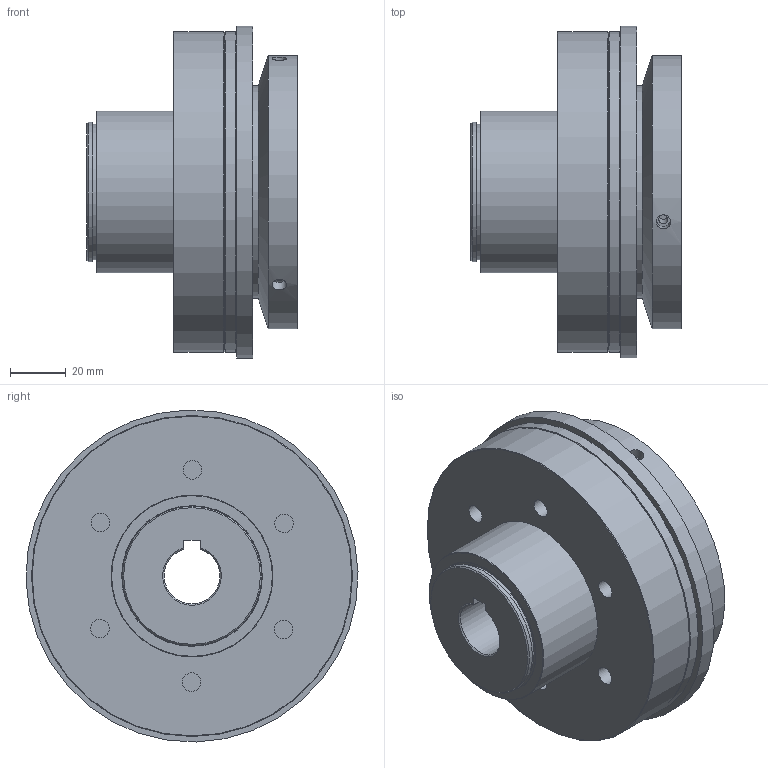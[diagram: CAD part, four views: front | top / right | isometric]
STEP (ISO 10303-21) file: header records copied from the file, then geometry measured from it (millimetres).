
FILE_DESCRIPTION( ( 'Unknown' ), '1' );
FILE_NAME( 'C:/Users/TWalzel/Documents/CAD-Daten/KBK-CP/300/KBK C-P-300.stp', 'Unknown', ( 'Unknown' ), ( 'Unknown' ), 'PSStep 16.0.42', 'Unknown', ' ' );
FILE_SCHEMA( ( 'AUTOMOTIVE_DESIGN { 1 0 10303 214 1 1 1 1 }' ) );
Length unit declared in the file: millimetre
Products named in the file (7): Stellring 300; Druckring 300; Assem1; Flansch-Gleitlager  CK-300; Grundkörper C-P-300_1
Assembly tree (6 placements, depth 3):
  Assem1
    Flansch-Gleitlager  CK-300
    Grundkörper C-P-300_1
    Stellring 300
      Stellring 300
    Druckring 300
      Druckring 300
Bounding box: 75.5 x 118.96 x 118.96 mm (x, y, z)
Volume: 445349.8 mm3; surface area: 103512.5 mm2
Topology: 4 solids, 4 shells, 78 faces, 156 edges, 98 vertices
Faces by surface type: cylinder 33, plane 28, cone 15, torus 2
Full cylindrical faces by diameter (mm): 3.242 x3, 5.2 x3, 6.647 x12, 48.5 x1, 50 x3, 58 x1, 70 x1, 76 x2, 90 x1, 98 x1, 98.5 x1, 115 x2, 119 x1
Entity records: 2777 total; most frequent: CARTESIAN_POINT 608, DIRECTION 331, ORIENTED_EDGE 188, AXIS2_PLACEMENT_3D 158, EDGE_LOOP 153, FACE_OUTER_BOUND 112, EDGE_CURVE 94, VERTEX_POINT 85
